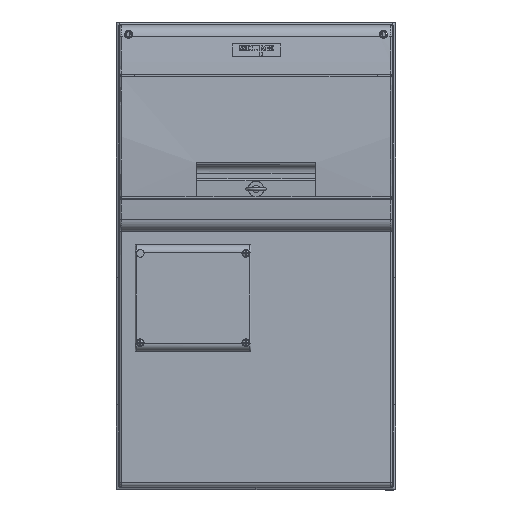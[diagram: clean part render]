
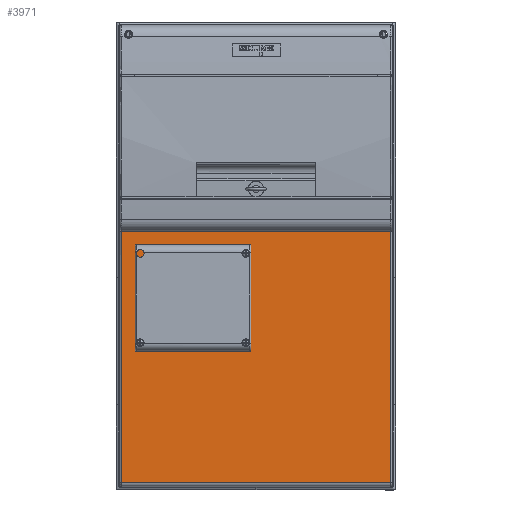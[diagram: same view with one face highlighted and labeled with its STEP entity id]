
A CAD part, top view. The second image highlights one B-rep face of the part: STEP entity #3971.
In plain terms, the highlighted planar face has unit normal (0, 0, 1).
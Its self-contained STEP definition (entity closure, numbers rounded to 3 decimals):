
#2810=LINE('',#16132,#3342);
#2853=LINE('',#16955,#3385);
#2855=LINE('',#16991,#3387);
#2858=LINE('',#17105,#3390);
#3342=VECTOR('',#12639,1.);
#3385=VECTOR('',#12918,1.);
#3387=VECTOR('',#12924,1.);
#3390=VECTOR('',#12935,1.);
#3971=ADVANCED_FACE('',(#4308),#4106,.T.);
#4106=PLANE('',#10781);
#4308=FACE_OUTER_BOUND('',#4706,.T.);
#4706=EDGE_LOOP('',(#6212,#6213,#6214,#6215));
#6212=ORIENTED_EDGE('',*,*,#8995,.T.);
#6213=ORIENTED_EDGE('',*,*,#8991,.T.);
#6214=ORIENTED_EDGE('',*,*,#9003,.F.);
#6215=ORIENTED_EDGE('',*,*,#8842,.F.);
#7492=VERTEX_POINT('',#16131);
#7493=VERTEX_POINT('',#16133);
#7570=VERTEX_POINT('',#16517);
#7578=VERTEX_POINT('',#16551);
#8842=EDGE_CURVE('',#7492,#7493,#2810,.T.);
#8991=EDGE_CURVE('',#7570,#7578,#2853,.T.);
#8995=EDGE_CURVE('',#7492,#7570,#2855,.T.);
#9003=EDGE_CURVE('',#7493,#7578,#2858,.T.);
#10781=AXIS2_PLACEMENT_3D('',#17733,#12951,#12952);
#12639=DIRECTION('',(1.,0.,0.));
#12918=DIRECTION('',(1.,0.,0.));
#12924=DIRECTION('',(0.,-1.,0.));
#12935=DIRECTION('',(0.,-1.,0.));
#12951=DIRECTION('',(0.,0.,1.));
#12952=DIRECTION('',(0.,-1.,0.));
#16131=CARTESIAN_POINT('',(-158.1,-246.108,95.5));
#16132=CARTESIAN_POINT('',(-160.1,-246.108,95.5));
#16133=CARTESIAN_POINT('',(158.1,-246.108,95.5));
#16517=CARTESIAN_POINT('',(-158.1,-541.148,95.5));
#16551=CARTESIAN_POINT('',(158.1,-541.148,95.5));
#16955=CARTESIAN_POINT('',(-160.1,-541.148,95.5));
#16991=CARTESIAN_POINT('',(-158.1,-391.148,95.5));
#17105=CARTESIAN_POINT('',(158.1,-246.108,95.5));
#17733=CARTESIAN_POINT('',(-160.1,-246.108,95.5));
